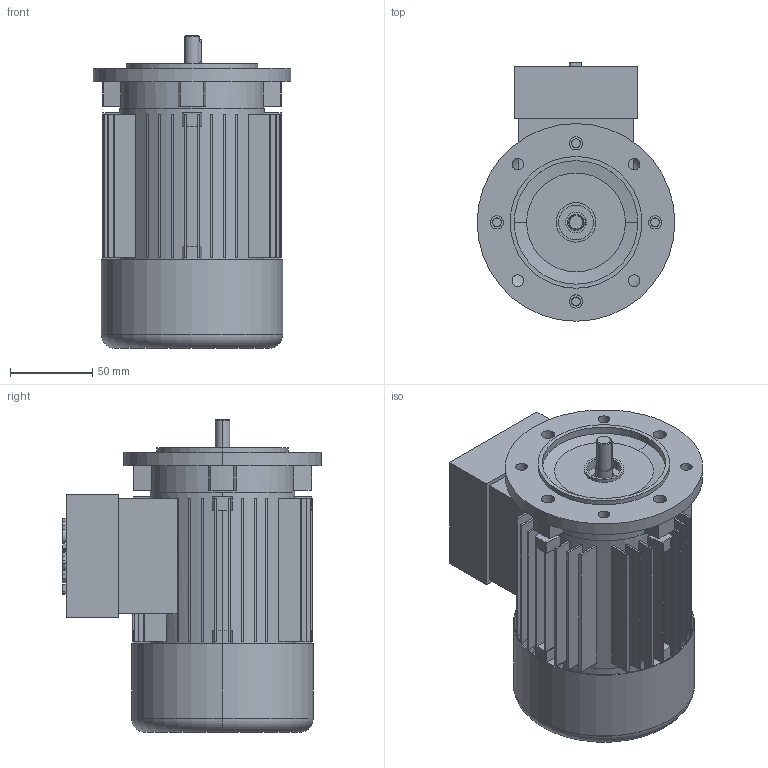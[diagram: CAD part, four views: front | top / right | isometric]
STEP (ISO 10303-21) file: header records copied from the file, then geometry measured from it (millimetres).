
FILE_DESCRIPTION (( 'STEP AP214' ), '1' );
FILE_NAME ('5AZ 56 config.STEP', '2018-03-13T09:24:12', ( '' ), ( '' ), 'SwSTEP 2.0', 'SolidWorks 2017', '' );
FILE_SCHEMA (( 'AUTOMOTIVE_DESIGN' ));
Length unit declared in the file: millimetre
Products named in the file (1): 5AZ 56 config
Bounding box: 120 x 157 x 190 mm (x, y, z)
Volume: 590128.8 mm3; surface area: 261011.9 mm2
Topology: 7 solids, 7 shells, 539 faces, 1380 edges, 911 vertices
Faces by surface type: plane 366, cylinder 150, cone 10, bspline 9, torus 4
Entity records: 16568 total; most frequent: CARTESIAN_POINT 3020, DIRECTION 2839, ORIENTED_EDGE 2760, EDGE_CURVE 1380, AXIS2_PLACEMENT_3D 958, LINE 923, VECTOR 923, VERTEX_POINT 911
